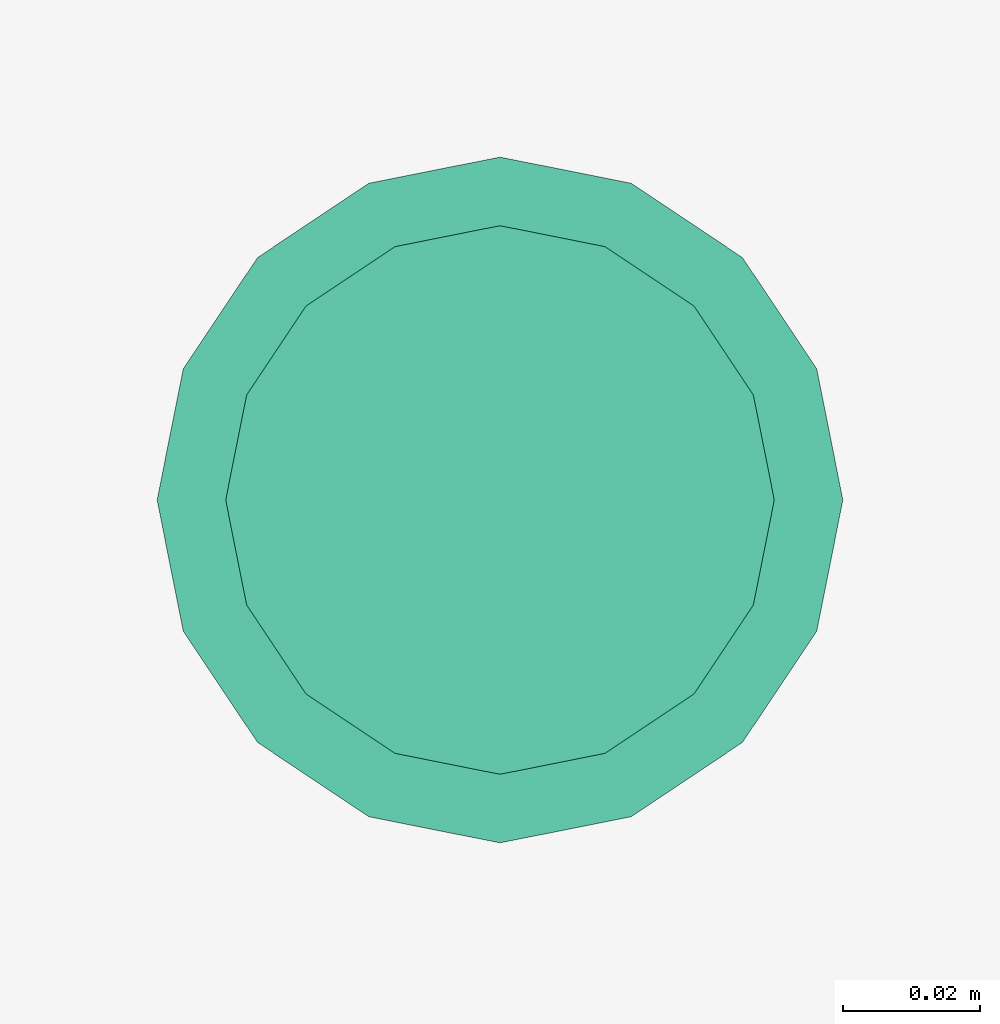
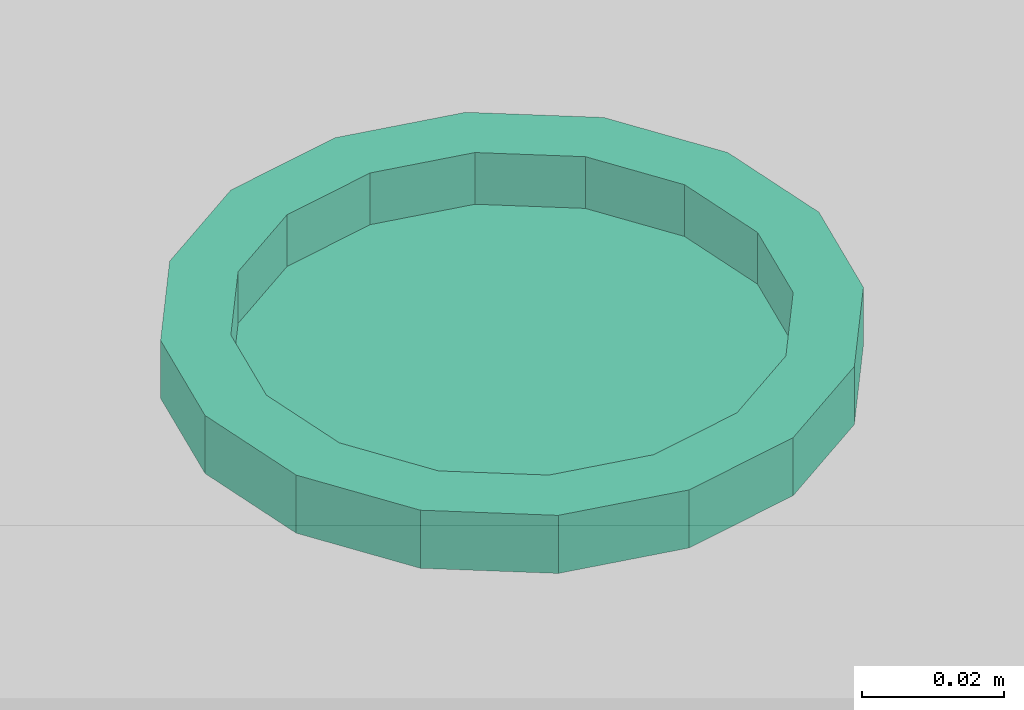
# One storey, part 249 of 347: 1 flow terminal.
"""IFC2X3 building model written with IfcOpenShell, lengths in millimetres."""

from ifc_helpers import new_model, entity, si_unit, converted_unit, derived_unit, money_unit, direction, frame, origin_with_axes, place, context, subcontext, project, spatial, open_shell, faceted_brep, surface_model, source, transform, mapped, type_object, type_shapes, element, save


model = new_model("IFC2X3")

# Units and contexts
model_context = context("Model", 3, precision=0.01, world=origin_with_axes(), true_north=direction((0.0, 1.0)))
plan_context = context("Plan", 3, precision=0.01, world=origin_with_axes(), true_north=direction((0.0, 1.0)))
body_context = subcontext(model_context, "Body", "Model", "MODEL_VIEW")
ifc_project = project(units=[si_unit("LENGTHUNIT", "METRE", prefix="MILLI"), si_unit("AREAUNIT", "SQUARE_METRE"), si_unit("VOLUMEUNIT", "CUBIC_METRE"), converted_unit("PLANEANGLEUNIT", "DEGREE", entity("IfcPlaneAngleMeasure", 0.0174532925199), si_unit("PLANEANGLEUNIT", "RADIAN"), dimensions=[0, 0, 0, 0, 0, 0, 0]), money_unit("EUR"), converted_unit("TIMEUNIT", "Year", entity("IfcTimeMeasure", 31556926.0), si_unit("TIMEUNIT", "SECOND"), dimensions=[0, 0, 1, 0, 0, 0, 0]), si_unit("MASSUNIT", "GRAM", prefix="KILO"), si_unit("THERMODYNAMICTEMPERATUREUNIT", "DEGREE_CELSIUS"), si_unit("LUMINOUSINTENSITYUNIT", "LUMEN"), si_unit("ENERGYUNIT", "JOULE", prefix="MEGA"), derived_unit("THERMALCONDUCTANCEUNIT", [(si_unit("POWERUNIT", "WATT"), 1), (si_unit("LENGTHUNIT", "METRE"), -1), (si_unit("THERMODYNAMICTEMPERATUREUNIT", "KELVIN"), -1)]), derived_unit("SPECIFICHEATCAPACITYUNIT", [(si_unit("ENERGYUNIT", "JOULE"), 1), (si_unit("MASSUNIT", "GRAM", prefix="KILO"), -1), (si_unit("THERMODYNAMICTEMPERATUREUNIT", "KELVIN"), -1)]), derived_unit("MASSDENSITYUNIT", [(si_unit("MASSUNIT", "GRAM", prefix="KILO"), 1), (si_unit("VOLUMEUNIT", "CUBIC_METRE"), -1)])], contexts=[model_context, plan_context])

# Site, building, storey
site_placement = place(None, origin_with_axes())
site = spatial("IfcSite", under=ifc_project, at=site_placement, Name="Site", CompositionType="ELEMENT")
building_placement = place(site_placement, origin_with_axes())
building = spatial("IfcBuilding", under=site, at=building_placement, Name="Naam gebouw", CompositionType="ELEMENT")
storey_placement = place(building_placement, origin_with_axes())
storey = spatial("IfcBuildingStorey", under=building, at=storey_placement, Name="begane grond", CompositionType="ELEMENT", Elevation=0.0)

# Flow terminal
lamp_type = type_object("IfcLampType", Name="Spot plafond 01 25", PredefinedType="NOTDEFINED")
shared_shape = source(origin_with_axes(), body_context, "Body", "SurfaceModel", [
    faceted_brep([(50.0, 0.0, -10.0), (46.1939766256, 19.1341716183, -10.0), (46.1939766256, 19.1341716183, 0.0), (50.0, 0.0, 0.0), (46.1939766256, -19.1341716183, -10.0), (35.3553390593, -35.3553390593, -10.0), (19.1341716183, -46.1939766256, -10.0), (0.0, -50.0, -10.0), (-19.1341716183, -46.1939766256, -10.0), (-35.3553390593, -35.3553390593, -10.0), (-46.1939766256, -19.1341716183, -10.0), (-50.0, 0.0, -10.0), (-46.1939766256, 19.1341716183, -10.0), (-35.3553390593, 35.3553390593, -10.0), (-19.1341716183, 46.1939766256, -10.0), (0.0, 50.0, -10.0), (19.1341716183, 46.1939766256, -10.0), (35.3553390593, 35.3553390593, -10.0), (40.0, 0.0, -10.0), (36.9551813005, 15.3073372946, -10.0), (28.2842712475, 28.2842712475, -10.0), (15.3073372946, 36.9551813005, -10.0), (0.0, 40.0, -10.0), (-15.3073372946, 36.9551813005, -10.0), (-28.2842712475, 28.2842712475, -10.0), (-36.9551813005, 15.3073372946, -10.0), (-40.0, 0.0, -10.0), (-36.9551813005, -15.3073372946, -10.0), (-28.2842712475, -28.2842712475, -10.0), (-15.3073372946, -36.9551813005, -10.0), (0.0, -40.0, -10.0), (15.3073372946, -36.9551813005, -10.0), (28.2842712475, -28.2842712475, -10.0), (36.9551813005, -15.3073372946, -10.0), (35.3553390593, 35.3553390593, 0.0), (19.1341716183, 46.1939766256, 0.0), (0.0, 50.0, 0.0), (-19.1341716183, 46.1939766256, 0.0), (-35.3553390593, 35.3553390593, 0.0), (-46.1939766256, 19.1341716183, 0.0), (-50.0, 0.0, 0.0), (-46.1939766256, -19.1341716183, 0.0), (-35.3553390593, -35.3553390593, 0.0), (-19.1341716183, -46.1939766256, 0.0), (0.0, -50.0, 0.0), (19.1341716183, -46.1939766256, 0.0), (35.3553390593, -35.3553390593, 0.0), (46.1939766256, -19.1341716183, 0.0), (40.0, 0.0, 0.0), (36.9551813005, -15.3073372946, 0.0), (28.2842712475, -28.2842712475, 0.0), (15.3073372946, -36.9551813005, 0.0), (0.0, -40.0, 0.0), (-15.3073372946, -36.9551813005, 0.0), (-28.2842712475, -28.2842712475, 0.0), (-36.9551813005, -15.3073372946, 0.0), (-40.0, 0.0, 0.0), (-36.9551813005, 15.3073372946, 0.0), (-28.2842712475, 28.2842712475, 0.0), (-15.3073372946, 36.9551813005, 0.0), (0.0, 40.0, 0.0), (15.3073372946, 36.9551813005, 0.0), (28.2842712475, 28.2842712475, 0.0), (36.9551813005, 15.3073372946, 0.0)], [[[0, 1, 2, 3]], [[0, 4, 5, 6, 7, 8, 9, 10, 11, 12, 13, 14, 15, 16, 17, 1], [18, 19, 20, 21, 22, 23, 24, 25, 26, 27, 28, 29, 30, 31, 32, 33]], [[1, 17, 34, 2]], [[3, 2, 34, 35, 36, 37, 38, 39, 40, 41, 42, 43, 44, 45, 46, 47], [48, 49, 50, 51, 52, 53, 54, 55, 56, 57, 58, 59, 60, 61, 62, 63]], [[4, 0, 3, 47]], [[5, 4, 47, 46]], [[6, 5, 46, 45]], [[7, 6, 45, 44]], [[8, 7, 44, 43]], [[9, 8, 43, 42]], [[10, 9, 42, 41]], [[11, 10, 41, 40]], [[12, 11, 40, 39]], [[13, 12, 39, 38]], [[14, 13, 38, 37]], [[15, 14, 37, 36]], [[16, 15, 36, 35]], [[17, 16, 35, 34]], [[19, 18, 48, 63]], [[20, 19, 63, 62]], [[21, 20, 62, 61]], [[22, 21, 61, 60]], [[23, 22, 60, 59]], [[24, 23, 59, 58]], [[25, 24, 58, 57]], [[26, 25, 57, 56]], [[27, 26, 56, 55]], [[28, 27, 55, 54]], [[29, 28, 54, 53]], [[30, 29, 53, 52]], [[31, 30, 52, 51]], [[32, 31, 51, 50]], [[33, 32, 50, 49]], [[18, 33, 49, 48]]]),
    surface_model("IfcShellBasedSurfaceModel", [(40.0, 0.0, -8.9), (36.9551813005, -15.3073372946, -8.9), (28.2842712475, -28.2842712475, -8.9), (15.3073372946, -36.9551813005, -8.9), (0.0, -40.0, -8.9), (-15.3073372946, -36.9551813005, -8.9), (-28.2842712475, -28.2842712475, -8.9), (-36.9551813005, -15.3073372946, -8.9), (-40.0, 0.0, -8.9), (-36.9551813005, 15.3073372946, -8.9), (-28.2842712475, 28.2842712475, -8.9), (-15.3073372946, 36.9551813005, -8.9), (0.0, 40.0, -8.9), (15.3073372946, 36.9551813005, -8.9), (28.2842712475, 28.2842712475, -8.9), (36.9551813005, 15.3073372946, -8.9)], [open_shell([[[0, 1, 2, 3, 4, 5, 6, 7, 8, 9, 10, 11, 12, 13, 14, 15]]])]),
])
type_shapes(lamp_type, [shared_shape])
flow_terminal_placement = place(storey_placement, frame((46155.0, 25340.0001323, 3000.0), z_axis=(0.0, 0.0, 1.0), x_axis=(1.0, 0.0, 0.0)))
element("IfcFlowTerminal", 1, at=flow_terminal_placement, inside=storey, type_object=lamp_type, Name="63_Lamp-x", ObjectType="Lamp", context=body_context, shape_type="MappedRepresentation", body=[
    mapped(shared_shape, transform((0.0, 0.0, 0.0))),
])

save(model, "model.ifc")
